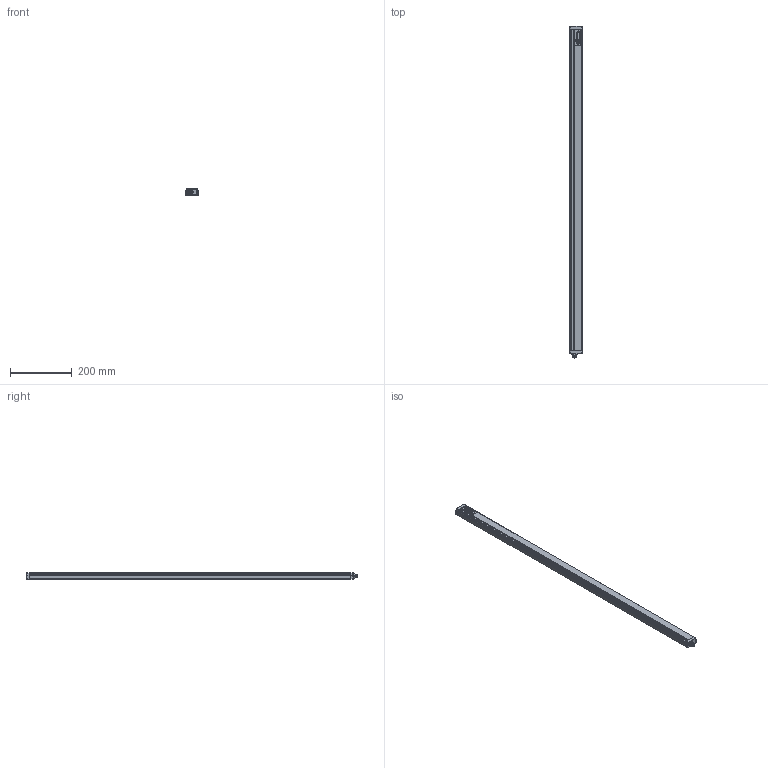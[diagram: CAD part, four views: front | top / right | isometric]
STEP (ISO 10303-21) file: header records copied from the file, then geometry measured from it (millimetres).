
FILE_DESCRIPTION(/* description */ (''),/* implementation_level */ '2;1');
FILE_NAME(/* name */ 'C:\Users\andre\SynologyDrive\Optoscan\Libreria Componenti\00 - Barriere\Barriera sorgente\Argo_1040_TX.stp',/* time_stamp */ '2021-04-22T10:21:39+02:00',/* author */ ('andre'),/* organization */ (''),/* preprocessor_version */ 'ST-DEVELOPER v18',/* originating_system */ 'Autodesk Inventor 2020',/* authorisation */ '');
FILE_SCHEMA (('AUTOMOTIVE_DESIGN { 1 0 10303 214 3 1 1 }'));
Length unit declared in the file: millimetre
Products named in the file (1): Argo_1040_TX
Bounding box: 40.5 x 1073.3 x 20.75 mm (x, y, z)
Volume: 213909.6 mm3; surface area: 278752.4 mm2
Topology: 1 solids, 1 shells, 696 faces, 1911 edges, 1225 vertices
Faces by surface type: plane 321, cylinder 195, bspline 94, torus 72, cone 8, sphere 6
Full cylindrical faces by diameter (mm): 1 x4, 2.459 x4, 2.5 x4, 3 x4, 3.5 x4, 5.5 x4, 8 x1, 10.5 x2, 11.75 x9, 15.7 x1, 17.5 x1
Entity records: 30770 total; most frequent: CARTESIAN_POINT 12670, ORIENTED_EDGE 3806, DIRECTION 3415, EDGE_CURVE 1903, VERTEX_POINT 1225, AXIS2_PLACEMENT_3D 1193, LINE 1029, VECTOR 1029
